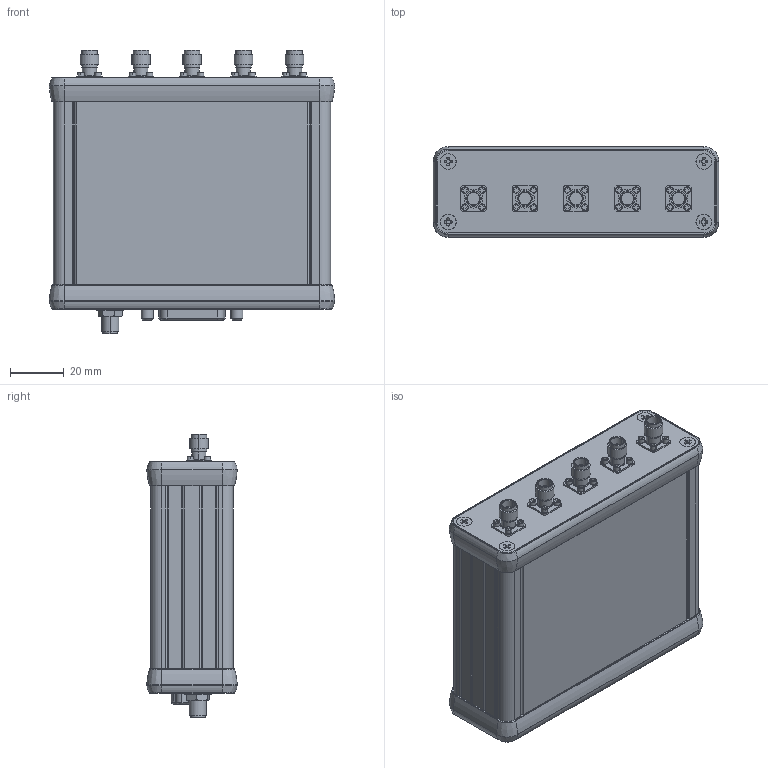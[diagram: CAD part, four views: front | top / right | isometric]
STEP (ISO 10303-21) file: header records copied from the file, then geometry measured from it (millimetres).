
FILE_DESCRIPTION (( 'STEP AP214' ), '1' );
FILE_NAME ('RFS44_defeatured.STEP', '2026-02-28T06:46:33', ( '' ), ( '' ), 'SwSTEP 2.0', 'SolidWorks 2026', '' );
FILE_SCHEMA (( 'AUTOMOTIVE_DESIGN' ));
Length unit declared in the file: millimetre
Products named in the file (1): RFS44_defeatured
Bounding box: 106.13 x 33.63 x 105.3 mm (x, y, z)
Volume: 275461.6 mm3; surface area: 33594 mm2
Topology: 1 solids, 1 shells, 974 faces, 2372 edges, 1517 vertices
Faces by surface type: plane 402, cylinder 330, cone 178, torus 48, bspline 16
Entity records: 28969 total; most frequent: CARTESIAN_POINT 5594, DIRECTION 5126, ORIENTED_EDGE 4740, EDGE_CURVE 2370, AXIS2_PLACEMENT_3D 1931, VERTEX_POINT 1517, VECTOR 1264, LINE 1264
